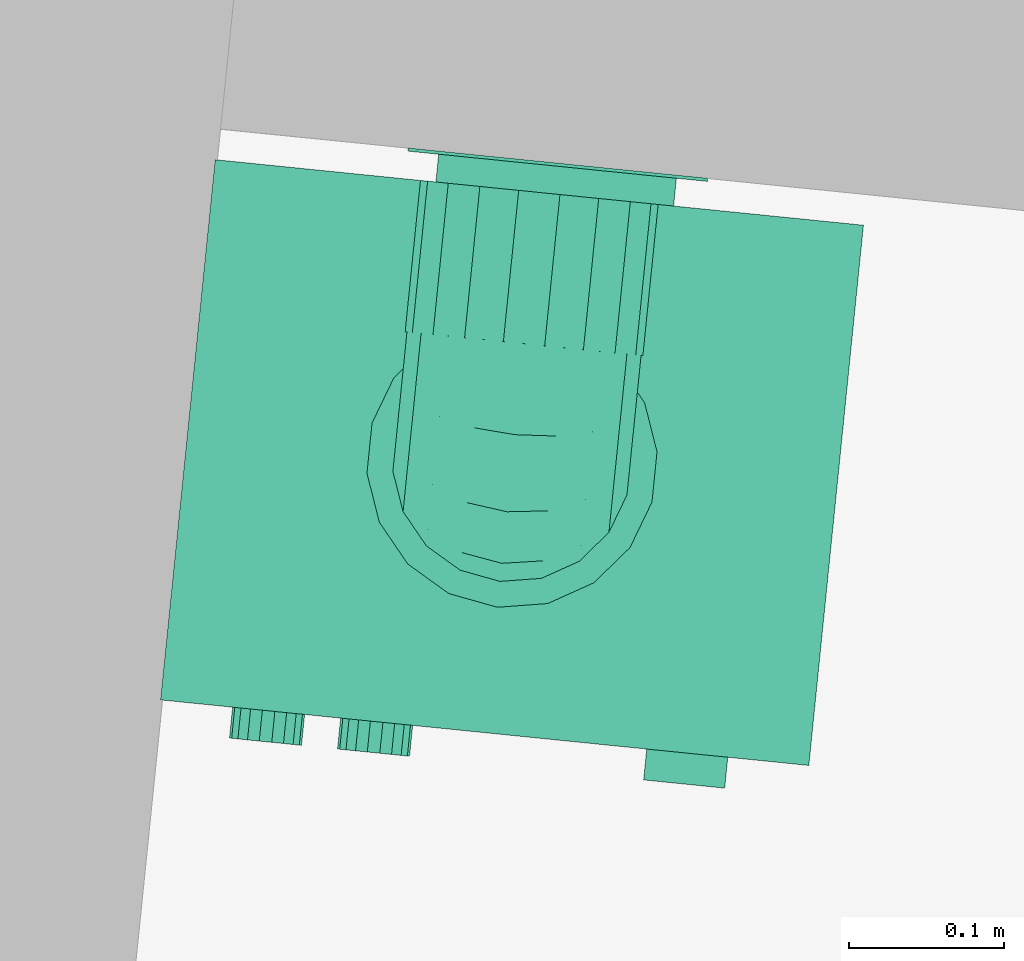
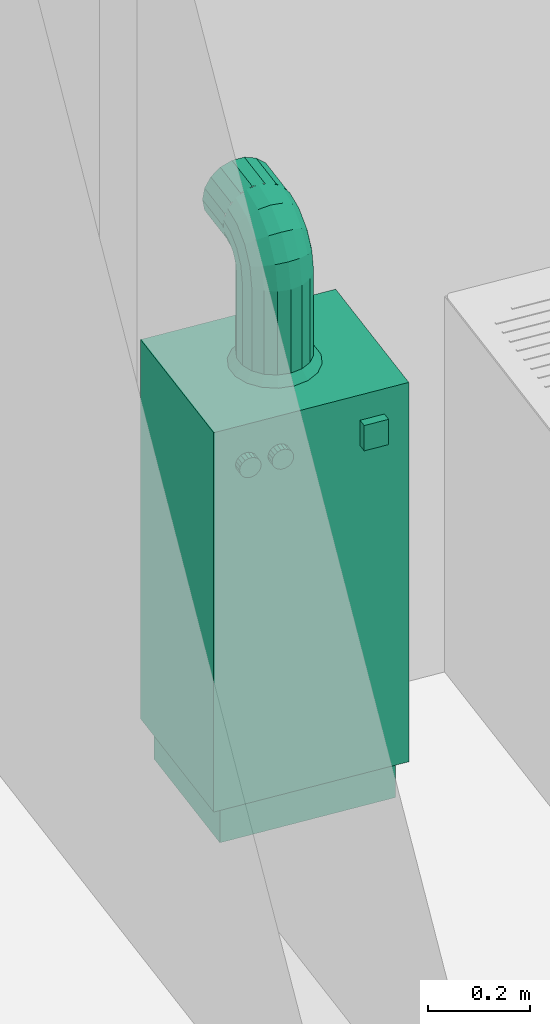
# One storey, part 126 of 171: 1 distribution element.
"""IFC2X3 building model written with IfcOpenShell, lengths in millimetres."""

from ifc_helpers import new_model, entity, si_unit, converted_unit, derived_unit, money_unit, direction, frame, origin_with_axes, place, context, subcontext, project, spatial, open_shell, faceted_brep, surface_model, source, transform, mapped, type_object, element, save


model = new_model("IFC2X3")

# Units and contexts
model_context = context("Model", 3, precision=0.01, world=origin_with_axes(), true_north=direction((0.0, 1.0)))
body_context = subcontext(model_context, "Body", "Model", "MODEL_VIEW")
ifc_project = project(units=[si_unit("LENGTHUNIT", "METRE", prefix="MILLI"), si_unit("AREAUNIT", "SQUARE_METRE"), si_unit("VOLUMEUNIT", "CUBIC_METRE"), converted_unit("PLANEANGLEUNIT", "DEGREE", entity("IfcPlaneAngleMeasure", 0.0174532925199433), si_unit("PLANEANGLEUNIT", "RADIAN"), dimensions=[0, 0, 0, 0, 0, 0, 0]), money_unit("USD"), converted_unit("TIMEUNIT", "Year", entity("IfcTimeMeasure", 31557600.0), si_unit("TIMEUNIT", "SECOND"), dimensions=[0, 0, 1, 0, 0, 0, 0]), si_unit("MASSUNIT", "GRAM", prefix="KILO"), si_unit("THERMODYNAMICTEMPERATUREUNIT", "DEGREE_CELSIUS"), si_unit("LUMINOUSINTENSITYUNIT", "LUMEN"), si_unit("ENERGYUNIT", "JOULE", prefix="MEGA"), derived_unit("THERMALCONDUCTANCEUNIT", [(si_unit("POWERUNIT", "WATT"), 1), (si_unit("LENGTHUNIT", "METRE"), -1), (si_unit("THERMODYNAMICTEMPERATUREUNIT", "KELVIN"), -1)]), derived_unit("SPECIFICHEATCAPACITYUNIT", [(si_unit("ENERGYUNIT", "JOULE"), 1), (si_unit("MASSUNIT", "GRAM", prefix="KILO"), -1), (si_unit("THERMODYNAMICTEMPERATUREUNIT", "KELVIN"), -1)]), derived_unit("MASSDENSITYUNIT", [(si_unit("MASSUNIT", "GRAM", prefix="KILO"), 1), (si_unit("VOLUMEUNIT", "CUBIC_METRE"), -1)])], contexts=[model_context])

# Site, building, storey
site_placement = place(None, origin_with_axes())
site = spatial("IfcSite", under=ifc_project, at=site_placement, Name="Site", CompositionType="ELEMENT")
building_placement = place(site_placement, origin_with_axes())
building = spatial("IfcBuilding", under=site, at=building_placement, Name="Bâtiment", CompositionType="ELEMENT")
storey_placement = place(building_placement, frame((0.0, 0.0, 3000.0), z_axis=(0.0, 0.0, 1.0), x_axis=(1.0, 0.0, 0.0)))
storey = spatial("IfcBuildingStorey", under=building, at=storey_placement, Name="rdc", CompositionType="ELEMENT", Elevation=3000.0)

# Distribution element
distribution_element_type = type_object("IfcDistributionElementType", Name="Chaudière à gaz 27")
shared_shape = source(origin_with_axes(), body_context, "Body", "SurfaceModel", [
    surface_model("IfcShellBasedSurfaceModel", [(-200.0, 350.0, 34.90909090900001), (-200.0, 368.0, 34.90909090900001), (-180.0709335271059, 368.0, 37.53280228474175), (-180.0709335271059, 350.0, 37.53280228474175), (-219.9290664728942, 350.0, 37.53280228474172), (-219.9290664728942, 368.0, 37.53280228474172), (-161.5, 368.0, 45.22513481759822), (-161.5, 350.0, 45.22513481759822), (-238.5000000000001, 350.0, 45.22513481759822), (-238.5000000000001, 368.0, 45.22513481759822), (-145.5527778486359, 368.0, 57.46186875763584), (-145.5527778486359, 350.0, 57.46186875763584), (-254.4472221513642, 350.0, 57.46186875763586), (-254.4472221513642, 368.0, 57.46186875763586), (-133.3160439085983, 368.0, 73.409090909), (-133.3160439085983, 350.0, 73.409090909), (-266.6839560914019, 350.0, 73.40909090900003), (-266.6839560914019, 368.0, 73.40909090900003), (-125.6237113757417, 368.0, 91.9800244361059), (-125.6237113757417, 350.0, 91.9800244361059), (-274.3762886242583, 350.0, 91.98002443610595), (-274.3762886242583, 368.0, 91.98002443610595), (-123.0, 368.0, 111.909090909), (-123.0, 350.0, 111.909090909), (-277.0, 350.0, 111.909090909), (-277.0, 368.0, 111.909090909), (-125.6237113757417, 368.0, 131.8381573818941), (-125.6237113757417, 350.0, 131.8381573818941), (-274.3762886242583, 350.0, 131.8381573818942), (-274.3762886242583, 368.0, 131.8381573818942), (-133.3160439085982, 368.0, 150.409090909), (-133.3160439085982, 350.0, 150.409090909), (-266.6839560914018, 350.0, 150.4090909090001), (-266.6839560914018, 368.0, 150.4090909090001), (-145.5527778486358, 368.0, 166.3563130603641), (-145.5527778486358, 350.0, 166.3563130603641), (-254.4472221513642, 350.0, 166.3563130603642), (-254.4472221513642, 368.0, 166.3563130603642), (-161.5, 368.0, 178.5930470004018), (-161.5, 350.0, 178.5930470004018), (-238.5, 350.0, 178.5930470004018), (-238.5, 368.0, 178.5930470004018), (-180.0709335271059, 368.0, 186.2853795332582), (-180.0709335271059, 350.0, 186.2853795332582), (-219.929066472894, 350.0, 186.2853795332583), (-219.929066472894, 368.0, 186.2853795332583), (-200.0, 368.0, 188.909090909), (-200.0, 350.0, 188.909090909)], [open_shell([[[0, 1, 2, 3]], [[4, 5, 1, 0]], [[3, 2, 6, 7]], [[8, 9, 5, 4]], [[7, 6, 10, 11]], [[12, 13, 9, 8]], [[11, 10, 14, 15]], [[16, 17, 13, 12]], [[15, 14, 18, 19]], [[20, 21, 17, 16]], [[19, 18, 22, 23]], [[24, 25, 21, 20]], [[23, 22, 26, 27]], [[28, 29, 25, 24]], [[27, 26, 30, 31]], [[32, 33, 29, 28]], [[31, 30, 34, 35]], [[36, 37, 33, 32]], [[35, 34, 38, 39]], [[40, 41, 37, 36]], [[39, 38, 42, 43]], [[44, 45, 41, 40]], [[43, 42, 46, 47]], [[47, 46, 45, 44]]])]),
    faceted_brep([(-200.0, 368.0, 14.909090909), (-200.0, 370.0, 14.909090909), (-174.8945526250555, 370.0, 18.21428575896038), (-174.8945526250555, 368.0, 18.21428575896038), (-225.1054473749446, 368.0, 18.21428575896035), (-225.1054473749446, 370.0, 18.21428575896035), (-248.5000000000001, 370.0, 27.90462674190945), (-268.5893577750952, 370.0, 43.31973313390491), (-284.0044641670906, 370.0, 63.40909090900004), (-293.6948051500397, 370.0, 86.80364353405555), (-297.0000000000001, 370.0, 111.909090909), (-293.6948051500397, 370.0, 137.0145382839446), (-284.0044641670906, 370.0, 160.4090909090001), (-268.5893577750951, 370.0, 180.4984486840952), (-248.5, 370.0, 195.9135550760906), (-225.1054473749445, 370.0, 205.6038960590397), (-199.9999999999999, 370.0, 208.909090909), (-174.8945526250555, 370.0, 205.6038960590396), (-151.5, 370.0, 195.9135550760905), (-131.4106422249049, 370.0, 180.4984486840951), (-115.9955358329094, 370.0, 160.409090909), (-106.3051948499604, 370.0, 137.0145382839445), (-103.0, 370.0, 111.909090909), (-106.3051948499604, 370.0, 86.80364353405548), (-115.9955358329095, 370.0, 63.40909090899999), (-131.4106422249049, 370.0, 43.31973313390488), (-151.5, 370.0, 27.90462674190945), (-200.0, 370.0, 34.90909090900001), (-180.0709335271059, 370.0, 37.53280228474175), (-161.5, 370.0, 45.22513481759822), (-145.5527778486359, 370.0, 57.46186875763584), (-133.3160439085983, 370.0, 73.409090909), (-125.6237113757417, 370.0, 91.9800244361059), (-123.0, 370.0, 111.909090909), (-125.6237113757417, 370.0, 131.8381573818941), (-133.3160439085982, 370.0, 150.409090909), (-145.5527778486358, 370.0, 166.3563130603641), (-161.5, 370.0, 178.5930470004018), (-180.0709335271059, 370.0, 186.2853795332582), (-200.0, 370.0, 188.909090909), (-219.929066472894, 370.0, 186.2853795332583), (-238.5, 370.0, 178.5930470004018), (-254.4472221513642, 370.0, 166.3563130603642), (-266.6839560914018, 370.0, 150.4090909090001), (-274.3762886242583, 370.0, 131.8381573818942), (-277.0, 370.0, 111.909090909), (-274.3762886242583, 370.0, 91.98002443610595), (-266.6839560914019, 370.0, 73.40909090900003), (-254.4472221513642, 370.0, 57.46186875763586), (-238.5000000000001, 370.0, 45.22513481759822), (-219.9290664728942, 370.0, 37.53280228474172), (-151.5, 368.0, 27.90462674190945), (-131.4106422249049, 368.0, 43.31973313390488), (-115.9955358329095, 368.0, 63.40909090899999), (-106.3051948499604, 368.0, 86.80364353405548), (-103.0, 368.0, 111.909090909), (-106.3051948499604, 368.0, 137.0145382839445), (-115.9955358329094, 368.0, 160.409090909), (-131.4106422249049, 368.0, 180.4984486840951), (-151.5, 368.0, 195.9135550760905), (-174.8945526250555, 368.0, 205.6038960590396), (-199.9999999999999, 368.0, 208.909090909), (-225.1054473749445, 368.0, 205.6038960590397), (-248.5, 368.0, 195.9135550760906), (-268.5893577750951, 368.0, 180.4984486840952), (-284.0044641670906, 368.0, 160.4090909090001), (-293.6948051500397, 368.0, 137.0145382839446), (-297.0000000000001, 368.0, 111.909090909), (-293.6948051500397, 368.0, 86.80364353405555), (-284.0044641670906, 368.0, 63.40909090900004), (-268.5893577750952, 368.0, 43.31973313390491), (-248.5000000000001, 368.0, 27.90462674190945), (-200.0, 368.0, 34.90909090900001), (-219.9290664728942, 368.0, 37.53280228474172), (-238.5000000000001, 368.0, 45.22513481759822), (-254.4472221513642, 368.0, 57.46186875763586), (-266.6839560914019, 368.0, 73.40909090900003), (-274.3762886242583, 368.0, 91.98002443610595), (-277.0, 368.0, 111.909090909), (-274.3762886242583, 368.0, 131.8381573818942), (-266.6839560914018, 368.0, 150.4090909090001), (-254.4472221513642, 368.0, 166.3563130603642), (-238.5, 368.0, 178.5930470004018), (-219.929066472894, 368.0, 186.2853795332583), (-200.0, 368.0, 188.909090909), (-180.0709335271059, 368.0, 186.2853795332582), (-161.5, 368.0, 178.5930470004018), (-145.5527778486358, 368.0, 166.3563130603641), (-133.3160439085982, 368.0, 150.409090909), (-125.6237113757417, 368.0, 131.8381573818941), (-123.0, 368.0, 111.909090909), (-125.6237113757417, 368.0, 91.9800244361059), (-133.3160439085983, 368.0, 73.409090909), (-145.5527778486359, 368.0, 57.46186875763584), (-161.5, 368.0, 45.22513481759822), (-180.0709335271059, 368.0, 37.53280228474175)], [[[0, 1, 2, 3]], [[4, 5, 1, 0]], [[1, 5, 6, 7, 8, 9, 10, 11, 12, 13, 14, 15, 16, 17, 18, 19, 20, 21, 22, 23, 24, 25, 26, 2], [27, 28, 29, 30, 31, 32, 33, 34, 35, 36, 37, 38, 39, 40, 41, 42, 43, 44, 45, 46, 47, 48, 49, 50]], [[3, 2, 26, 51]], [[0, 3, 51, 52, 53, 54, 55, 56, 57, 58, 59, 60, 61, 62, 63, 64, 65, 66, 67, 68, 69, 70, 71, 4], [72, 73, 74, 75, 76, 77, 78, 79, 80, 81, 82, 83, 84, 85, 86, 87, 88, 89, 90, 91, 92, 93, 94, 95]], [[71, 6, 5, 4]], [[70, 7, 6, 71]], [[69, 8, 7, 70]], [[68, 9, 8, 69]], [[67, 10, 9, 68]], [[66, 11, 10, 67]], [[65, 12, 11, 66]], [[64, 13, 12, 65]], [[63, 14, 13, 64]], [[62, 15, 14, 63]], [[61, 16, 15, 62]], [[60, 17, 16, 61]], [[59, 18, 17, 60]], [[58, 19, 18, 59]], [[57, 20, 19, 58]], [[56, 21, 20, 57]], [[55, 22, 21, 56]], [[54, 23, 22, 55]], [[53, 24, 23, 54]], [[52, 25, 24, 53]], [[51, 26, 25, 52]], [[95, 28, 27, 72]], [[94, 29, 28, 95]], [[93, 30, 29, 94]], [[92, 31, 30, 93]], [[91, 32, 31, 92]], [[90, 33, 32, 91]], [[89, 34, 33, 90]], [[88, 35, 34, 89]], [[87, 36, 35, 88]], [[86, 37, 36, 87]], [[85, 38, 37, 86]], [[84, 39, 38, 85]], [[83, 40, 39, 84]], [[82, 41, 40, 83]], [[81, 42, 41, 82]], [[80, 43, 42, 81]], [[79, 44, 43, 80]], [[78, 45, 44, 79]], [[77, 46, 45, 78]], [[76, 47, 46, 77]], [[75, 48, 47, 76]], [[74, 49, 48, 75]], [[73, 50, 49, 74]], [[72, 27, 50, 73]]]),
    faceted_brep([(-399.0, 17.5, 0.0), (-399.0, 332.5, 0.0), (-21.0, 332.5, 0.0), (-21.0, 17.5, 0.0), (-399.0, 17.5, 90.9090909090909), (-399.0, 332.5, 90.9090909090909), (-21.0, 332.5, 90.9090909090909), (-21.0, 17.5, 90.9090909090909)], [[[0, 1, 2, 3]], [[0, 4, 5, 1]], [[1, 5, 6, 2]], [[2, 6, 7, 3]], [[3, 7, 4, 0]], [[7, 6, 5, 4]]]),
    faceted_brep([(0.0, 350.0, 90.9090909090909), (-420.0, 350.0, 90.90909090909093), (-419.9999999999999, 350.0, 1000.0), (0.0, 350.0, 1000.0), (0.0, 0.0, 90.9090909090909), (-420.0, 0.0, 90.90909090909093), (-419.9999999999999, 0.0, 818.1818181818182), (-419.9999999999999, 17.5, 818.1818181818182), (-419.9999999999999, 17.5, 1000.0), (0.0, 17.5, 1000.0), (0.0, 17.5, 818.1818181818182), (0.0, 0.0, 818.1818181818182)], [[[0, 1, 2, 3]], [[4, 5, 1, 0]], [[1, 5, 6, 7, 8, 2]], [[3, 2, 8, 9]], [[0, 3, 9, 10, 11, 4]], [[11, 6, 5, 4]], [[10, 7, 6, 11]], [[9, 8, 7, 10]]]),
    faceted_brep([(-420.0, 0.0, 818.1818181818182), (-420.0, 17.5, 818.1818181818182), (0.0, 17.5, 818.1818181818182), (0.0, 0.0, 818.1818181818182), (-420.0, 0.0, 1000.0), (-420.0, 17.5, 1000.0), (0.0, 17.5, 1000.0), (0.0, 0.0, 1000.0)], [[[0, 1, 2, 3]], [[0, 4, 5, 1]], [[1, 5, 6, 2]], [[2, 6, 7, 3]], [[3, 7, 4, 0]], [[7, 6, 5, 4]]]),
    faceted_brep([(-301.9261611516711, 0.0, 901.1104390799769), (-303.3333333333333, 0.0, 909.0909090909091), (-301.9261611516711, 0.0, 917.0713791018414), (-297.8743703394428, 0.0, 924.0892866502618), (-291.6666666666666, 0.0, 929.2981685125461), (-284.0517908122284, 0.0, 932.0697566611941), (-275.9482091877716, 0.0, 932.0697566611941), (-268.3333333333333, 0.0, 929.2981685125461), (-262.1256296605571, 0.0, 924.0892866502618), (-258.0738388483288, 0.0, 917.0713791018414), (-256.6666666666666, 0.0, 909.0909090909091), (-258.0738388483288, 0.0, 901.1104390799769), (-262.1256296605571, 0.0, 894.0925315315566), (-268.3333333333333, 0.0, 888.8836496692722), (-275.9482091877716, 0.0, 886.1120615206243), (-284.0517908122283, 0.0, 886.1120615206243), (-291.6666666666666, 0.0, 888.8836496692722), (-297.8743703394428, 0.0, 894.0925315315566), (-301.9261611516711, -19.99999999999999, 901.1104390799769), (-303.3333333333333, -19.99999999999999, 909.0909090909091), (-301.9261611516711, -19.99999999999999, 917.0713791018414), (-297.8743703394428, -19.99999999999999, 924.0892866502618), (-291.6666666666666, -19.99999999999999, 929.2981685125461), (-284.0517908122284, -19.99999999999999, 932.0697566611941), (-275.9482091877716, -19.99999999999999, 932.0697566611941), (-268.3333333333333, -19.99999999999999, 929.2981685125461), (-262.1256296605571, -19.99999999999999, 924.0892866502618), (-258.0738388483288, -19.99999999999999, 917.0713791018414), (-256.6666666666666, -19.99999999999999, 909.0909090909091), (-258.0738388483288, -19.99999999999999, 901.1104390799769), (-262.1256296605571, -19.99999999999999, 894.0925315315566), (-268.3333333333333, -19.99999999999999, 888.8836496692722), (-275.9482091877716, -19.99999999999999, 886.1120615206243), (-284.0517908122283, -19.99999999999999, 886.1120615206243), (-291.6666666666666, -19.99999999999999, 888.8836496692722), (-297.8743703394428, -19.99999999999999, 894.0925315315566)], [[[0, 1, 2, 3, 4, 5, 6, 7, 8, 9, 10, 11, 12, 13, 14, 15, 16, 17]], [[0, 18, 19, 1]], [[1, 19, 20, 2]], [[2, 20, 21, 3]], [[3, 21, 22, 4]], [[4, 22, 23, 5]], [[5, 23, 24, 6]], [[6, 24, 25, 7]], [[7, 25, 26, 8]], [[8, 26, 27, 9]], [[9, 27, 28, 10]], [[10, 28, 29, 11]], [[11, 29, 30, 12]], [[12, 30, 31, 13]], [[13, 31, 32, 14]], [[14, 32, 33, 15]], [[15, 33, 34, 16]], [[16, 34, 35, 17]], [[17, 35, 18, 0]], [[18, 35, 34, 33, 32, 31, 30, 29, 28, 27, 26, 25, 24, 23, 22, 21, 20, 19]]]),
    faceted_brep([(-371.9261611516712, 0.0, 901.1104390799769), (-373.3333333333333, 0.0, 909.0909090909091), (-371.9261611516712, 0.0, 917.0713791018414), (-367.8743703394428, 0.0, 924.0892866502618), (-361.6666666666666, 0.0, 929.2981685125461), (-354.0517908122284, 0.0, 932.0697566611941), (-345.9482091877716, 0.0, 932.0697566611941), (-338.3333333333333, 0.0, 929.2981685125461), (-332.1256296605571, 0.0, 924.0892866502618), (-328.0738388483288, 0.0, 917.0713791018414), (-326.6666666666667, 0.0, 909.0909090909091), (-328.0738388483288, 0.0, 901.1104390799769), (-332.1256296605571, 0.0, 894.0925315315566), (-338.3333333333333, 0.0, 888.8836496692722), (-345.9482091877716, 0.0, 886.1120615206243), (-354.0517908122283, 0.0, 886.1120615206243), (-361.6666666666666, 0.0, 888.8836496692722), (-367.8743703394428, 0.0, 894.0925315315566), (-371.9261611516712, -19.99999999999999, 901.1104390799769), (-373.3333333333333, -19.99999999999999, 909.0909090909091), (-371.9261611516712, -19.99999999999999, 917.0713791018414), (-367.8743703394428, -19.99999999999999, 924.0892866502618), (-361.6666666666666, -19.99999999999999, 929.2981685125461), (-354.0517908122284, -19.99999999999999, 932.0697566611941), (-345.9482091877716, -19.99999999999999, 932.0697566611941), (-338.3333333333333, -19.99999999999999, 929.2981685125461), (-332.1256296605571, -19.99999999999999, 924.0892866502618), (-328.0738388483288, -19.99999999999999, 917.0713791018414), (-326.6666666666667, -19.99999999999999, 909.0909090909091), (-328.0738388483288, -19.99999999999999, 901.1104390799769), (-332.1256296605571, -19.99999999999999, 894.0925315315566), (-338.3333333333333, -19.99999999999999, 888.8836496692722), (-345.9482091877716, -19.99999999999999, 886.1120615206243), (-354.0517908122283, -19.99999999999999, 886.1120615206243), (-361.6666666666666, -19.99999999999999, 888.8836496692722), (-367.8743703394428, -19.99999999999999, 894.0925315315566)], [[[0, 1, 2, 3, 4, 5, 6, 7, 8, 9, 10, 11, 12, 13, 14, 15, 16, 17]], [[0, 18, 19, 1]], [[1, 19, 20, 2]], [[2, 20, 21, 3]], [[3, 21, 22, 4]], [[4, 22, 23, 5]], [[5, 23, 24, 6]], [[6, 24, 25, 7]], [[7, 25, 26, 8]], [[8, 26, 27, 9]], [[9, 27, 28, 10]], [[10, 28, 29, 11]], [[11, 29, 30, 12]], [[12, 30, 31, 13]], [[13, 31, 32, 14]], [[14, 32, 33, 15]], [[15, 33, 34, 16]], [[16, 34, 35, 17]], [[17, 35, 18, 0]], [[18, 35, 34, 33, 32, 31, 30, 29, 28, 27, 26, 25, 24, 23, 22, 21, 20, 19]]]),
    faceted_brep([(-105.0, 0.0, 878.7878787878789), (-105.0, 0.0, 939.3939393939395), (-52.5, 0.0, 939.3939393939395), (-52.5, 0.0, 878.7878787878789), (-105.0, -20.0, 878.7878787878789), (-105.0, -19.99999999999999, 939.3939393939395), (-52.5, -19.99999999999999, 939.3939393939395), (-52.5, -20.0, 878.7878787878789)], [[[0, 1, 2, 3]], [[0, 4, 5, 1]], [[1, 5, 6, 2]], [[2, 6, 7, 3]], [[3, 7, 4, 0]], [[7, 6, 5, 4]]]),
    surface_model("IfcShellBasedSurfaceModel", [(-183.6644489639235, 247.3563318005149, 1220.0), (-183.6644489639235, 247.3563318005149, 1020.0), (-210.0, 252.0, 1020.0), (-210.0, 252.0, 1220.0), (-160.5053540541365, 233.9854221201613, 1220.0), (-160.5053540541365, 233.9854221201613, 1020.0), (-177.9356115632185, 263.0961831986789, 1000.0), (-210.0, 268.75, 1000.0), (-236.3355510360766, 247.356331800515, 1020.0), (-236.3355510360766, 247.356331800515, 1220.0), (-143.3160439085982, 213.5, 1220.0), (-143.3160439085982, 213.5, 1020.0), (-149.7386615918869, 246.8166665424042, 1000.0), (-242.0643884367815, 263.0961831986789, 1000.0), (-259.4946459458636, 233.9854221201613, 1020.0), (-259.4946459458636, 233.9854221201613, 1220.0), (-134.16980301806, 188.3709096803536, 1220.0), (-134.16980301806, 188.3709096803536, 1020.0), (-128.8101183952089, 221.875, 1000.0), (-270.2613384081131, 246.8166665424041, 1000.0), (-276.6839560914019, 213.5, 1020.0), (-276.6839560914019, 213.5, 1220.0), (-134.16980301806, 161.6290903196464, 1220.0), (-134.16980301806, 161.6290903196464, 1020.0), (-117.6742731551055, 191.2795166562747, 1000.0), (-291.1898816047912, 221.8749999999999, 1000.0), (-285.83019698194, 188.3709096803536, 1020.0), (-285.83019698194, 188.3709096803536, 1220.0), (-143.3160439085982, 136.5, 1220.0), (-143.3160439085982, 136.5, 1020.0), (-117.6742731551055, 158.7204833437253, 1000.0), (-302.3257268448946, 191.2795166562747, 1000.0), (-285.83019698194, 161.6290903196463, 1020.0), (-285.83019698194, 161.6290903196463, 1220.0), (-160.5053540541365, 116.0145778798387, 1220.0), (-160.5053540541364, 116.0145778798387, 1020.0), (-128.8101183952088, 128.125, 1000.0), (-302.3257268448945, 158.7204833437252, 1000.0), (-276.6839560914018, 136.4999999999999, 1020.0), (-276.6839560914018, 136.4999999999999, 1220.0), (-183.6644489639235, 102.643668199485, 1220.0), (-183.6644489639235, 102.643668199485, 1020.0), (-149.7386615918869, 103.1833334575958, 1000.0), (-291.1898816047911, 128.1249999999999, 1000.0), (-259.4946459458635, 116.0145778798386, 1020.0), (-259.4946459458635, 116.0145778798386, 1220.0), (-210.0, 97.99999999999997, 1220.0), (-210.0, 97.99999999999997, 1020.0), (-177.9356115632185, 86.90381680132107, 1000.0), (-270.261338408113, 103.1833334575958, 1000.0), (-236.3355510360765, 102.643668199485, 1020.0), (-236.3355510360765, 102.643668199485, 1220.0), (-210.0, 81.24999999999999, 1000.0), (-242.0643884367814, 86.90381680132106, 1000.0)], [open_shell([[[0, 1, 2, 3]], [[4, 5, 1, 0]], [[1, 6, 7, 2]], [[3, 2, 8, 9]], [[10, 11, 5, 4]], [[5, 12, 6, 1]], [[2, 7, 13, 8]], [[9, 8, 14, 15]], [[16, 17, 11, 10]], [[11, 18, 12, 5]], [[8, 13, 19, 14]], [[15, 14, 20, 21]], [[22, 23, 17, 16]], [[17, 24, 18, 11]], [[14, 19, 25, 20]], [[21, 20, 26, 27]], [[28, 29, 23, 22]], [[23, 30, 24, 17]], [[20, 25, 31, 26]], [[27, 26, 32, 33]], [[34, 35, 29, 28]], [[29, 36, 30, 23]], [[26, 31, 37, 32]], [[33, 32, 38, 39]], [[40, 41, 35, 34]], [[35, 42, 36, 29]], [[32, 37, 43, 38]], [[39, 38, 44, 45]], [[46, 47, 41, 40]], [[41, 48, 42, 35]], [[38, 43, 49, 44]], [[45, 44, 50, 51]], [[51, 50, 47, 46]], [[47, 52, 48, 41]], [[44, 49, 53, 50]], [[50, 53, 52, 47]]])]),
    faceted_brep([(-285.83019698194, 161.6290903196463, 1220.0), (-285.83019698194, 168.5081662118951, 1254.583449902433), (-285.83019698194, 193.2143857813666, 1244.349798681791), (-285.83019698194, 188.3709096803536, 1220.0), (-276.6839560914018, 136.4999999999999, 1220.0), (-276.6839560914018, 145.2919139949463, 1264.199936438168), (-285.83019698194, 188.0981169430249, 1283.901883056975), (-285.83019698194, 207.0074387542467, 1264.992561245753), (-276.6839560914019, 213.4999999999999, 1220.0), (-276.6839560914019, 216.4306379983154, 1234.733312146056), (-259.4946459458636, 233.9854221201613, 1220.0), (-236.3355510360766, 247.356331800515, 1220.0), (-210.0, 252.0, 1220.0), (-183.6644489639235, 247.3563318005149, 1220.0), (-160.5053540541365, 233.9854221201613, 1220.0), (-143.3160439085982, 213.5, 1220.0), (-134.16980301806, 188.3709096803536, 1220.0), (-134.16980301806, 161.6290903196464, 1220.0), (-143.3160439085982, 136.5, 1220.0), (-160.5053540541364, 116.0145778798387, 1220.0), (-183.6644489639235, 102.643668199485, 1220.0), (-210.0, 97.99999999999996, 1220.0), (-236.3355510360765, 102.643668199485, 1220.0), (-259.4946459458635, 116.0145778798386, 1220.0), (-259.4946459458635, 126.3658517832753, 1272.039368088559), (-276.6839560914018, 170.3291667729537, 1301.670833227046), (-285.83019698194, 217.4165500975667, 1303.491833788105), (-285.83019698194, 227.6502013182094, 1278.785614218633), (-276.6839560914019, 224.7763889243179, 1247.223611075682), (-259.4946459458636, 235.3567002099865, 1226.893880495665), (-236.3355510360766, 247.7098099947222, 1221.777054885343), (-183.6644489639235, 247.7098099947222, 1221.777054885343), (-160.5053540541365, 235.3567002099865, 1226.893880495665), (-143.3160439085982, 216.4306379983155, 1234.733312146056), (-134.16980301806, 193.2143857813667, 1244.349798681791), (-134.16980301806, 168.5081662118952, 1254.583449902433), (-143.3160439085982, 145.2919139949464, 1264.199936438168), (-160.5053540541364, 126.3658517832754, 1272.039368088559), (-183.6644489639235, 114.0127419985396, 1277.15619369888), (-210.0, 109.7225519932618, 1278.933248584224), (-236.3355510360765, 114.0127419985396, 1277.15619369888), (-259.4946459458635, 155.8437858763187, 1316.156214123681), (-276.6839560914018, 207.8000635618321, 1326.708086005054), (-285.83019698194, 252.0, 1310.370909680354), (-285.83019698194, 252.0, 1283.629090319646), (-276.6839560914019, 237.266687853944, 1255.569362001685), (-259.4946459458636, 239.2617698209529, 1232.738230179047), (-236.3355510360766, 248.7164307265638, 1223.283569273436), (-183.6644489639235, 248.7164307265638, 1223.283569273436), (-160.5053540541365, 239.2617698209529, 1232.738230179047), (-143.3160439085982, 224.7763889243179, 1247.223611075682), (-134.16980301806, 207.0074387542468, 1264.992561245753), (-134.16980301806, 188.0981169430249, 1283.901883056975), (-143.3160439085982, 170.3291667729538, 1301.670833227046), (-160.5053540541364, 155.8437858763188, 1316.156214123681), (-183.6644489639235, 146.3891249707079, 1325.610875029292), (-210.0, 143.1055556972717, 1328.894444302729), (-236.3355510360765, 146.3891249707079, 1325.610875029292), (-259.4946459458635, 199.9606319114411, 1345.634148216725), (-276.6839560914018, 252.0, 1335.5), (-276.6839560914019, 252.0, 1258.5), (-259.4946459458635, 252.0, 1355.985422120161), (-236.3355510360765, 252.0, 1369.356331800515), (-210.0, 252.0, 1374.0), (-183.6644489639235, 252.0, 1369.356331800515), (-160.5053540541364, 252.0, 1355.985422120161), (-143.3160439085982, 252.0, 1335.5), (-134.16980301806, 252.0, 1310.370909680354), (-134.16980301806, 252.0, 1283.629090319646), (-143.3160439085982, 252.0, 1258.5), (-160.5053540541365, 252.0, 1238.014577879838), (-183.6644489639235, 252.0, 1224.643668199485), (-236.3355510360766, 252.0, 1224.643668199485), (-259.4946459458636, 252.0, 1238.014577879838), (-259.4946459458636, 245.1061195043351, 1236.643299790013), (-236.3355510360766, 250.2229451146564, 1224.290190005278), (-183.6644489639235, 250.2229451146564, 1224.290190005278), (-160.5053540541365, 245.1061195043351, 1236.643299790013), (-143.3160439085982, 237.2666878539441, 1255.569362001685), (-134.16980301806, 227.6502013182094, 1278.785614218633), (-134.16980301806, 217.4165500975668, 1303.491833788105), (-143.3160439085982, 207.8000635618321, 1326.708086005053), (-160.5053540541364, 199.9606319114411, 1345.634148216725), (-183.6644489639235, 194.8438063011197, 1357.98725800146), (-210.0, 193.0667514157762, 1362.277448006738), (-236.3355510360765, 194.8438063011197, 1357.98725800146)], [[[0, 1, 2, 3]], [[1, 0, 4, 5]], [[1, 6, 7, 2]], [[8, 3, 2, 9]], [[4, 0, 3, 8, 10, 11, 12, 13, 14, 15, 16, 17, 18, 19, 20, 21, 22, 23]], [[5, 4, 23, 24]], [[6, 1, 5, 25]], [[7, 6, 26, 27]], [[2, 7, 28, 9]], [[29, 10, 8, 9]], [[10, 29, 30, 11]], [[11, 30, 12]], [[31, 13, 12]], [[13, 31, 32, 14]], [[33, 15, 14, 32]], [[15, 33, 34, 16]], [[35, 17, 16, 34]], [[18, 17, 35, 36]], [[37, 19, 18, 36]], [[20, 19, 37, 38]], [[39, 21, 20, 38]], [[22, 21, 39, 40]], [[24, 23, 22, 40]], [[25, 5, 24, 41]], [[6, 25, 42, 26]], [[27, 26, 43, 44]], [[45, 28, 7, 27]], [[46, 29, 9, 28]], [[29, 46, 47, 30]], [[30, 47, 12]], [[48, 31, 12]], [[31, 48, 49, 32]], [[32, 49, 50, 33]], [[34, 33, 50, 51]], [[52, 35, 34, 51]], [[35, 52, 53, 36]], [[54, 37, 36, 53]], [[38, 37, 54, 55]], [[56, 39, 38, 55]], [[57, 40, 39, 56]], [[41, 24, 40, 57]], [[42, 25, 41, 58]], [[26, 42, 59, 43]], [[60, 44, 43, 59, 61, 62, 63, 64, 65, 66, 67, 68, 69, 70, 71, 12, 72, 73]], [[45, 27, 44, 60]], [[28, 45, 74, 46]], [[46, 74, 75, 47]], [[47, 75, 12]], [[76, 48, 12]], [[48, 76, 77, 49]], [[49, 77, 78, 50]], [[50, 78, 79, 51]], [[52, 51, 79, 80]], [[53, 52, 80, 81]], [[82, 54, 53, 81]], [[55, 54, 82, 83]], [[56, 55, 83, 84]], [[85, 57, 56, 84]], [[58, 41, 57, 85]], [[59, 42, 58, 61]], [[61, 58, 85, 62]], [[62, 85, 84, 63]], [[84, 83, 64, 63]], [[82, 65, 64, 83]], [[65, 82, 81, 66]], [[81, 80, 67, 66]], [[80, 79, 68, 67]], [[79, 78, 69, 68]], [[77, 70, 69, 78]], [[77, 76, 71, 70]], [[76, 12, 71]], [[75, 72, 12]], [[74, 73, 72, 75]], [[45, 60, 73, 74]]]),
    surface_model("IfcShellBasedSurfaceModel", [(-137.643668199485, 350.0, 1323.335551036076), (-137.643668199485, 252.0, 1323.335551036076), (-133.0, 252.0, 1297.0), (-133.0, 350.0, 1297.0), (-151.0145778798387, 350.0, 1346.494645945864), (-151.0145778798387, 252.0, 1346.494645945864), (-137.643668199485, 252.0, 1270.664448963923), (-137.643668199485, 350.0, 1270.664448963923), (-171.5, 350.0, 1363.683956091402), (-171.5, 252.0, 1363.683956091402), (-151.0145778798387, 252.0, 1247.505354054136), (-151.0145778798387, 350.0, 1247.505354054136), (-196.6290903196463, 350.0, 1372.83019698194), (-196.6290903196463, 252.0, 1372.83019698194), (-171.5, 252.0, 1230.316043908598), (-171.5, 350.0, 1230.316043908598), (-223.3709096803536, 350.0, 1372.83019698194), (-223.3709096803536, 252.0, 1372.83019698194), (-196.6290903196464, 252.0, 1221.16980301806), (-196.6290903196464, 350.0, 1221.16980301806), (-248.5, 350.0, 1363.683956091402), (-248.5, 252.0, 1363.683956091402), (-223.3709096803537, 252.0, 1221.16980301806), (-223.3709096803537, 350.0, 1221.16980301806), (-268.9854221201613, 350.0, 1346.494645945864), (-268.9854221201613, 252.0, 1346.494645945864), (-248.5000000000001, 252.0, 1230.316043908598), (-248.5000000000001, 350.0, 1230.316043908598), (-282.356331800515, 350.0, 1323.335551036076), (-282.356331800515, 252.0, 1323.335551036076), (-268.9854221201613, 252.0, 1247.505354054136), (-268.9854221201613, 350.0, 1247.505354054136), (-287.0000000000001, 350.0, 1297.0), (-287.0000000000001, 252.0, 1297.0), (-282.356331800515, 252.0, 1270.664448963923), (-282.356331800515, 350.0, 1270.664448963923)], [open_shell([[[0, 1, 2, 3]], [[4, 5, 1, 0]], [[3, 2, 6, 7]], [[8, 9, 5, 4]], [[7, 6, 10, 11]], [[12, 13, 9, 8]], [[11, 10, 14, 15]], [[16, 17, 13, 12]], [[15, 14, 18, 19]], [[20, 21, 17, 16]], [[19, 18, 22, 23]], [[24, 25, 21, 20]], [[23, 22, 26, 27]], [[28, 29, 25, 24]], [[27, 26, 30, 31]], [[32, 33, 29, 28]], [[31, 30, 34, 35]], [[35, 34, 33, 32]]])]),
])
distribution_element_placement = place(storey_placement, frame((2229344.832336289, -615219.0094632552, 0.0), z_axis=(0.0, 0.0, 1.0), x_axis=(0.9949300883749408, -0.1005689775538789, 0.0)))
element("IfcDistributionElement", 1, at=distribution_element_placement, inside=storey, type_object=distribution_element_type, Name="Obj.-003", context=body_context, shape_type="MappedRepresentation", body=[
    mapped(shared_shape, transform((0.0, 0.0, 0.0))),
])

save(model, "model.ifc")
